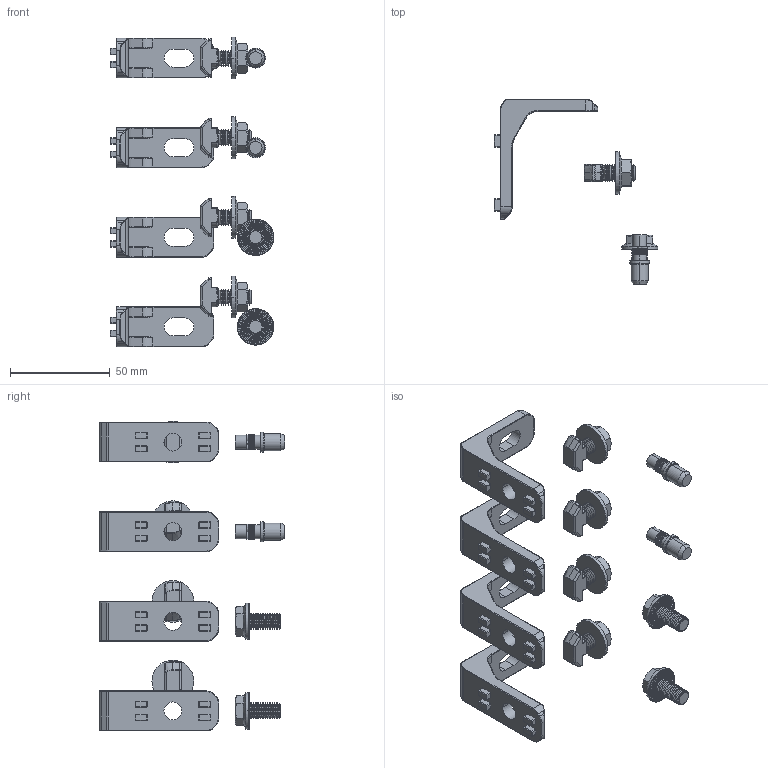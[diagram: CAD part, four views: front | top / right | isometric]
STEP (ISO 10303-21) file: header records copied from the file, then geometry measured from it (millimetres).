
FILE_DESCRIPTION (( 'STEP AP214' ), '1' );
FILE_NAME ('093wl201n10s01.STEP', '2014-04-08T09:19:25', ( '' ), ( '' ), 'SwSTEP 2.0', 'SolidWorks 2014', '' );
FILE_SCHEMA (( 'AUTOMOTIVE_DESIGN' ));
Length unit declared in the file: millimetre
Products named in the file (1): 093wl201n10s01
Bounding box: 82.1 x 93.2 x 155.5 mm (x, y, z)
Volume: 64878.1 mm3; surface area: 37615.4 mm2
Topology: 16 solids, 16 shells, 2746 faces, 6799 edges, 4027 vertices
Faces by surface type: plane 1074, cylinder 840, cone 432, bspline 400
Entity records: 123567 total; most frequent: CARTESIAN_POINT 31798, ORIENTED_EDGE 13422, DIRECTION 12422, EDGE_CURVE 6711, AXIS2_PLACEMENT_3D 4589, VERTEX_POINT 4027, LINE 3244, VECTOR 3244
